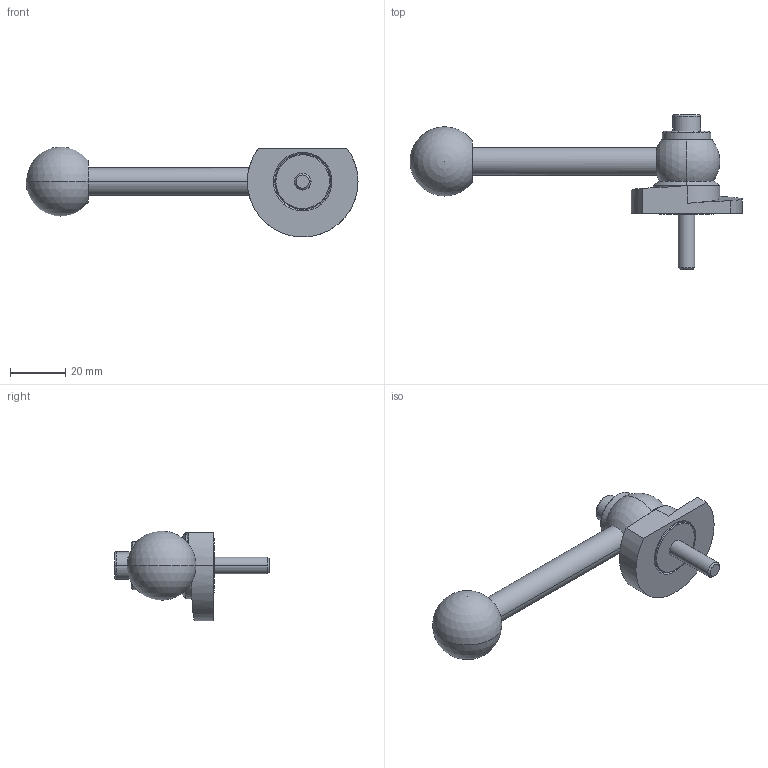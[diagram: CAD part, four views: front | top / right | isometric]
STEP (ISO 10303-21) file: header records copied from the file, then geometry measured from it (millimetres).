
FILE_DESCRIPTION (( 'STEP AP214' ), '1' );
FILE_NAME ('918.1-40-GVS-R-20.step', '2024-05-15T12:59:38', ( '' ), ( '' ), 'SwSTEP 2.0', 'SolidWorks 2022', '' );
FILE_SCHEMA (( 'AUTOMOTIVE_DESIGN' ));
Length unit declared in the file: millimetre
Products named in the file (1): 918.1-40-GVS-R-20
Bounding box: 120 x 56 x 32.5 mm (x, y, z)
Volume: 30073.2 mm3; surface area: 11116.1 mm2
Topology: 1 solids, 1 shells, 64 faces, 147 edges, 93 vertices
Faces by surface type: cylinder 22, plane 20, cone 14, sphere 4, torus 2, bspline 2
Entity records: 2045 total; most frequent: CARTESIAN_POINT 590, DIRECTION 321, ORIENTED_EDGE 274, EDGE_CURVE 137, AXIS2_PLACEMENT_3D 131, VERTEX_POINT 87, EDGE_LOOP 76, CIRCLE 68
